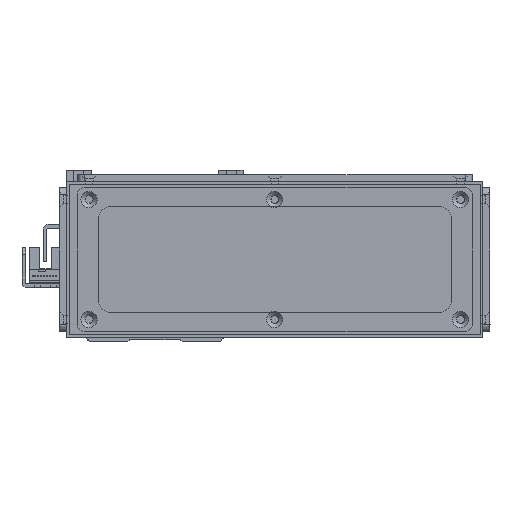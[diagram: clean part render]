
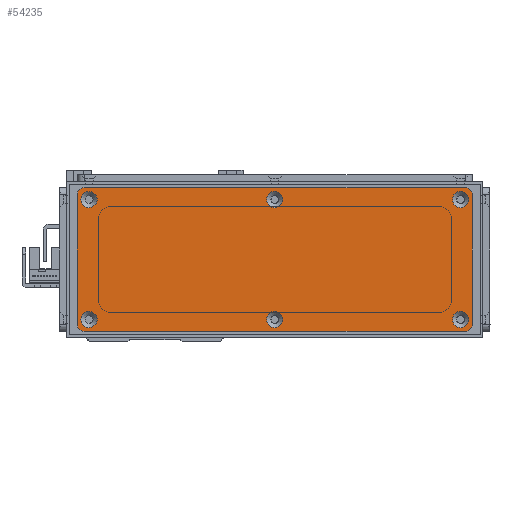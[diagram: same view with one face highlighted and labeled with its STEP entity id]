
A CAD part, left-side view. The second image highlights one B-rep face of the part: STEP entity #54235.
In plain terms, the highlighted planar face has unit normal (-1, 0, 0) as drawn and (0, 0, 1) by its records, which use the part's own axes.
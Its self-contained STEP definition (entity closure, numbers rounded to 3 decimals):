
#2436=FACE_BOUND('',#9574,.T.);
#2437=FACE_BOUND('',#9575,.T.);
#2438=FACE_BOUND('',#9576,.T.);
#2439=FACE_BOUND('',#9577,.T.);
#2440=FACE_BOUND('',#9578,.T.);
#2441=FACE_BOUND('',#9579,.T.);
#3070=PLANE('',#58590);
#6364=FACE_OUTER_BOUND('',#9573,.T.);
#9573=EDGE_LOOP('',(#43622,#43623,#43624,#43625,#43626,#43627,#43628,#43629));
#9574=EDGE_LOOP('',(#43630));
#9575=EDGE_LOOP('',(#43631));
#9576=EDGE_LOOP('',(#43632));
#9577=EDGE_LOOP('',(#43633));
#9578=EDGE_LOOP('',(#43634));
#9579=EDGE_LOOP('',(#43635));
#13059=LINE('',#81645,#19272);
#13062=LINE('',#81653,#19275);
#13065=LINE('',#81661,#19278);
#13068=LINE('',#81668,#19281);
#19272=VECTOR('',#66716,10.);
#19275=VECTOR('',#66725,10.);
#19278=VECTOR('',#66734,10.);
#19281=VECTOR('',#66743,10.);
#24917=CIRCLE('',#58544,3.45);
#24920=CIRCLE('',#58549,3.45);
#24923=CIRCLE('',#58554,3.45);
#24926=CIRCLE('',#58559,3.45);
#24929=CIRCLE('',#58564,3.45);
#24932=CIRCLE('',#58569,3.45);
#24939=CIRCLE('',#58579,3.);
#24940=CIRCLE('',#58582,3.);
#24941=CIRCLE('',#58585,3.);
#24942=CIRCLE('',#58588,3.);
#27024=VERTEX_POINT('',#81561);
#27027=VERTEX_POINT('',#81571);
#27030=VERTEX_POINT('',#81581);
#27033=VERTEX_POINT('',#81591);
#27036=VERTEX_POINT('',#81601);
#27039=VERTEX_POINT('',#81611);
#27050=VERTEX_POINT('',#81638);
#27051=VERTEX_POINT('',#81640);
#27052=VERTEX_POINT('',#81644);
#27053=VERTEX_POINT('',#81648);
#27054=VERTEX_POINT('',#81652);
#27055=VERTEX_POINT('',#81656);
#27056=VERTEX_POINT('',#81660);
#27057=VERTEX_POINT('',#81664);
#33050=EDGE_CURVE('',#27024,#27024,#24917,.T.);
#33055=EDGE_CURVE('',#27027,#27027,#24920,.T.);
#33060=EDGE_CURVE('',#27030,#27030,#24923,.T.);
#33065=EDGE_CURVE('',#27033,#27033,#24926,.T.);
#33070=EDGE_CURVE('',#27036,#27036,#24929,.T.);
#33075=EDGE_CURVE('',#27039,#27039,#24932,.T.);
#33089=EDGE_CURVE('',#27051,#27050,#24939,.T.);
#33091=EDGE_CURVE('',#27052,#27051,#13059,.T.);
#33093=EDGE_CURVE('',#27053,#27052,#24940,.T.);
#33095=EDGE_CURVE('',#27054,#27053,#13062,.T.);
#33097=EDGE_CURVE('',#27055,#27054,#24941,.T.);
#33099=EDGE_CURVE('',#27056,#27055,#13065,.T.);
#33101=EDGE_CURVE('',#27057,#27056,#24942,.T.);
#33103=EDGE_CURVE('',#27050,#27057,#13068,.T.);
#43622=ORIENTED_EDGE('',*,*,#33103,.T.);
#43623=ORIENTED_EDGE('',*,*,#33101,.T.);
#43624=ORIENTED_EDGE('',*,*,#33099,.T.);
#43625=ORIENTED_EDGE('',*,*,#33097,.T.);
#43626=ORIENTED_EDGE('',*,*,#33095,.T.);
#43627=ORIENTED_EDGE('',*,*,#33093,.T.);
#43628=ORIENTED_EDGE('',*,*,#33091,.T.);
#43629=ORIENTED_EDGE('',*,*,#33089,.T.);
#43630=ORIENTED_EDGE('',*,*,#33050,.T.);
#43631=ORIENTED_EDGE('',*,*,#33055,.T.);
#43632=ORIENTED_EDGE('',*,*,#33060,.T.);
#43633=ORIENTED_EDGE('',*,*,#33065,.T.);
#43634=ORIENTED_EDGE('',*,*,#33070,.T.);
#43635=ORIENTED_EDGE('',*,*,#33075,.T.);
#54235=ADVANCED_FACE('',(#6364,#2436,#2437,#2438,#2439,#2440,#2441),#3070,
 .T.);
#58544=AXIS2_PLACEMENT_3D('',#81562,#66624,#66625);
#58549=AXIS2_PLACEMENT_3D('',#81572,#66636,#66637);
#58554=AXIS2_PLACEMENT_3D('',#81582,#66648,#66649);
#58559=AXIS2_PLACEMENT_3D('',#81592,#66660,#66661);
#58564=AXIS2_PLACEMENT_3D('',#81602,#66672,#66673);
#58569=AXIS2_PLACEMENT_3D('',#81612,#66684,#66685);
#58579=AXIS2_PLACEMENT_3D('',#81641,#66711,#66712);
#58582=AXIS2_PLACEMENT_3D('',#81649,#66720,#66721);
#58585=AXIS2_PLACEMENT_3D('',#81657,#66729,#66730);
#58588=AXIS2_PLACEMENT_3D('',#81665,#66738,#66739);
#58590=AXIS2_PLACEMENT_3D('',#81669,#66744,#66745);
#66624=DIRECTION('center_axis',(0.,0.,-1.));
#66625=DIRECTION('ref_axis',(1.,0.,0.));
#66636=DIRECTION('center_axis',(0.,0.,-1.));
#66637=DIRECTION('ref_axis',(1.,0.,0.));
#66648=DIRECTION('center_axis',(0.,0.,-1.));
#66649=DIRECTION('ref_axis',(1.,0.,0.));
#66660=DIRECTION('center_axis',(0.,0.,-1.));
#66661=DIRECTION('ref_axis',(1.,0.,0.));
#66672=DIRECTION('center_axis',(0.,0.,-1.));
#66673=DIRECTION('ref_axis',(1.,0.,0.));
#66684=DIRECTION('center_axis',(0.,0.,-1.));
#66685=DIRECTION('ref_axis',(1.,0.,0.));
#66711=DIRECTION('center_axis',(0.,0.,1.));
#66712=DIRECTION('ref_axis',(-1.,0.,0.));
#66716=DIRECTION('',(0.,1.,0.));
#66720=DIRECTION('center_axis',(0.,0.,1.));
#66721=DIRECTION('ref_axis',(0.,1.,0.));
#66725=DIRECTION('',(1.,0.,0.));
#66729=DIRECTION('center_axis',(0.,0.,1.));
#66730=DIRECTION('ref_axis',(1.,0.,0.));
#66734=DIRECTION('',(0.,-1.,0.));
#66738=DIRECTION('center_axis',(0.,0.,1.));
#66739=DIRECTION('ref_axis',(0.,-1.,0.));
#66743=DIRECTION('',(-1.,0.,0.));
#66744=DIRECTION('center_axis',(0.,0.,1.));
#66745=DIRECTION('ref_axis',(1.,0.,0.));
#81561=CARTESIAN_POINT('',(-3.45,25.5,1.5));
#81562=CARTESIAN_POINT('Origin',(0.,25.5,1.5));
#81571=CARTESIAN_POINT('',(75.55,-25.5,1.5));
#81572=CARTESIAN_POINT('Origin',(79.,-25.5,1.5));
#81581=CARTESIAN_POINT('',(-82.45,25.5,1.5));
#81582=CARTESIAN_POINT('Origin',(-79.,25.5,1.5));
#81591=CARTESIAN_POINT('',(75.55,25.5,1.5));
#81592=CARTESIAN_POINT('Origin',(79.,25.5,1.5));
#81601=CARTESIAN_POINT('',(-82.45,-25.5,1.5));
#81602=CARTESIAN_POINT('Origin',(-79.,-25.5,1.5));
#81611=CARTESIAN_POINT('',(-3.45,-25.5,1.5));
#81612=CARTESIAN_POINT('Origin',(0.,-25.5,1.5));
#81638=CARTESIAN_POINT('',(81.,30.5,1.5));
#81640=CARTESIAN_POINT('',(84.,27.5,1.5));
#81641=CARTESIAN_POINT('Origin',(81.,27.5,1.5));
#81644=CARTESIAN_POINT('',(84.,-27.5,1.5));
#81645=CARTESIAN_POINT('',(84.,27.5,1.5));
#81648=CARTESIAN_POINT('',(81.,-30.5,1.5));
#81649=CARTESIAN_POINT('Origin',(81.,-27.5,1.5));
#81652=CARTESIAN_POINT('',(-81.,-30.5,1.5));
#81653=CARTESIAN_POINT('',(81.,-30.5,1.5));
#81656=CARTESIAN_POINT('',(-84.,-27.5,1.5));
#81657=CARTESIAN_POINT('Origin',(-81.,-27.5,1.5));
#81660=CARTESIAN_POINT('',(-84.,27.5,1.5));
#81661=CARTESIAN_POINT('',(-84.,-27.5,1.5));
#81664=CARTESIAN_POINT('',(-81.,30.5,1.5));
#81665=CARTESIAN_POINT('Origin',(-81.,27.5,1.5));
#81668=CARTESIAN_POINT('',(-81.,30.5,1.5));
#81669=CARTESIAN_POINT('Origin',(0.,0.,
1.5));
